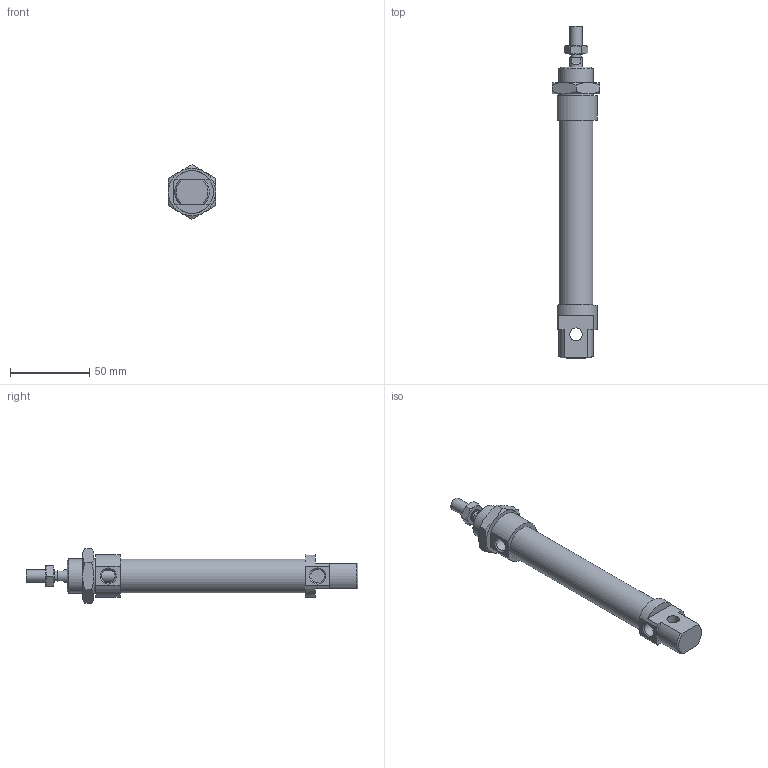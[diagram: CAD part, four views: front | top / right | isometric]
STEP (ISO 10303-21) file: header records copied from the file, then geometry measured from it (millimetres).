
FILE_DESCRIPTION((''),'2;1');
FILE_NAME('I:\Area Tecnica\Disegni\VARIE-3D\Componenti\1280\1280_##_####_#\1280_20_0080.iam.stp','2009-06-04T09:44:17',(''),(''),'Autodesk Inventor 2010','Autodesk Inventor 2010','');
FILE_SCHEMA(('AUTOMOTIVE_DESIGN { 1 0 10303 214 1 1 1 1 }'));
Length unit declared in the file: millimetre
Products named in the file (5): 1280_20_0080; C1280_20_80; S1280_20_80; 1200_20_05; 1200_20_06
Assembly tree (4 placements, depth 2):
  1280_20_0080
    C1280_20_80
    S1280_20_80
    1200_20_05
    1200_20_06
Bounding box: 30 x 210 x 34.64 mm (x, y, z)
Volume: 72596 mm3; surface area: 23880.8 mm2
Topology: 4 solids, 4 shells, 92 faces, 204 edges, 125 vertices
Faces by surface type: plane 41, cone 28, bspline 12, cylinder 11
Full cylindrical faces by diameter (mm): 6.5 x1, 8 x4, 21.2 x1, 22 x1
Entity records: 2742 total; most frequent: CARTESIAN_POINT 697, DIRECTION 376, ORIENTED_EDGE 356, EDGE_CURVE 178, AXIS2_PLACEMENT_3D 163, EDGE_LOOP 124, VERTEX_POINT 118, STYLED_ITEM 96
